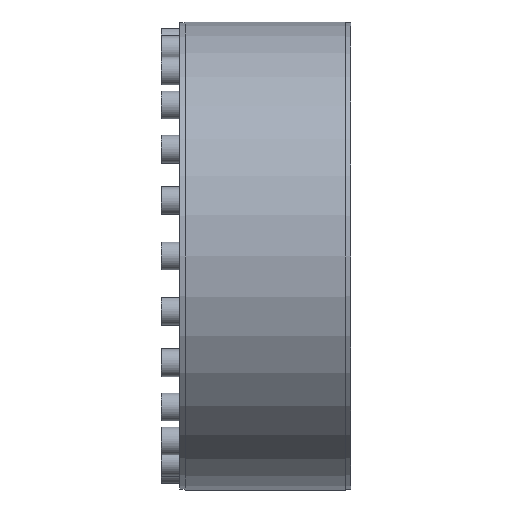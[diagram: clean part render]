
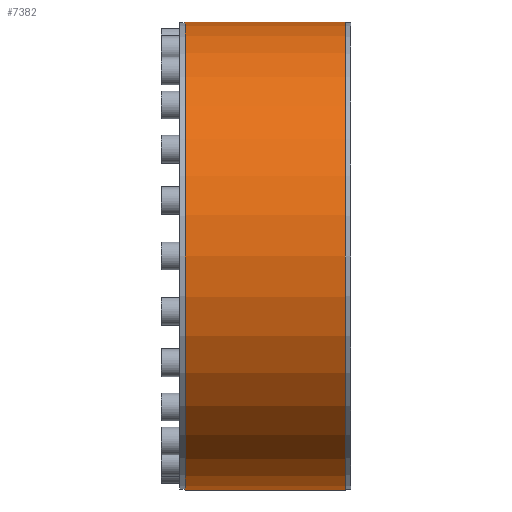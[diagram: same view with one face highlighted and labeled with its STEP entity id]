
A CAD part, left-side view. The second image highlights one B-rep face of the part: STEP entity #7382.
In plain terms, the highlighted cylindrical face has radius 277.5 mm (diameter 555 mm), a partial arc.
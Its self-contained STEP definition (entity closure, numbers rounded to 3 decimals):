
#37 = CARTESIAN_POINT ( 'NONE',  ( 0., 95., 0. ) ) ;
#92 = CARTESIAN_POINT ( 'NONE',  ( 0., -95., -277.5 ) ) ;
#120 = CARTESIAN_POINT ( 'NONE',  ( 0., 95., 277.5 ) ) ;
#291 = EDGE_LOOP ( 'NONE', ( #6358, #5840, #3488, #7066 ) ) ;
#669 = CIRCLE ( 'NONE', #6777, 277.5 ) ;
#819 = DIRECTION ( 'NONE',  ( 0., 0., -1. ) ) ;
#882 = AXIS2_PLACEMENT_3D ( 'NONE', #3589, #4997, #7584 ) ;
#1198 = AXIS2_PLACEMENT_3D ( 'NONE', #1577, #6741, #7411 ) ;
#1297 = VERTEX_POINT ( 'NONE', #1954 ) ;
#1407 = EDGE_CURVE ( 'NONE', #1297, #3977, #5108, .T. ) ;
#1577 = CARTESIAN_POINT ( 'NONE',  ( 0., -95., 0. ) ) ;
#1954 = CARTESIAN_POINT ( 'NONE',  ( 0., -95., 277.5 ) ) ;
#2277 = CARTESIAN_POINT ( 'NONE',  ( 0., 95., -277.5 ) ) ;
#2305 = DIRECTION ( 'NONE',  ( 0., -1., 0. ) ) ;
#2385 = CARTESIAN_POINT ( 'NONE',  ( 0., 0., 277.5 ) ) ;
#2681 = DIRECTION ( 'NONE',  ( 0., -1., 0. ) ) ;
#3167 = LINE ( 'NONE', #5580, #5572 ) ;
#3488 = ORIENTED_EDGE ( 'NONE', *, *, #5748, .T. ) ;
#3589 = CARTESIAN_POINT ( 'NONE',  ( 0., 0., 0. ) ) ;
#3977 = VERTEX_POINT ( 'NONE', #92 ) ;
#4517 = LINE ( 'NONE', #2385, #6184 ) ;
#4997 = DIRECTION ( 'NONE',  ( 0., -1., 0. ) ) ;
#5024 = DIRECTION ( 'NONE',  ( 0., -1., 0. ) ) ;
#5108 = CIRCLE ( 'NONE', #1198, 277.5 ) ;
#5224 = FACE_OUTER_BOUND ( 'NONE', #291, .T. ) ;
#5548 = VERTEX_POINT ( 'NONE', #120 ) ;
#5572 = VECTOR ( 'NONE', #5024, 1000. ) ;
#5580 = CARTESIAN_POINT ( 'NONE',  ( 0., 0., -277.5 ) ) ;
#5748 = EDGE_CURVE ( 'NONE', #8024, #3977, #3167, .T. ) ;
#5786 = EDGE_CURVE ( 'NONE', #5548, #1297, #4517, .T. ) ;
#5840 = ORIENTED_EDGE ( 'NONE', *, *, #7842, .T. ) ;
#6184 = VECTOR ( 'NONE', #2305, 1000. ) ;
#6358 = ORIENTED_EDGE ( 'NONE', *, *, #5786, .F. ) ;
#6741 = DIRECTION ( 'NONE',  ( 0., -1., 0. ) ) ;
#6777 = AXIS2_PLACEMENT_3D ( 'NONE', #37, #2681, #819 ) ;
#7066 = ORIENTED_EDGE ( 'NONE', *, *, #1407, .F. ) ;
#7382 = ADVANCED_FACE ( 'NONE', ( #5224 ), #8315, .T. ) ;
#7411 = DIRECTION ( 'NONE',  ( 0., 0., -1. ) ) ;
#7584 = DIRECTION ( 'NONE',  ( 0., 0., -1. ) ) ;
#7842 = EDGE_CURVE ( 'NONE', #5548, #8024, #669, .T. ) ;
#8024 = VERTEX_POINT ( 'NONE', #2277 ) ;
#8315 = CYLINDRICAL_SURFACE ( 'NONE', #882, 277.5 ) ;
